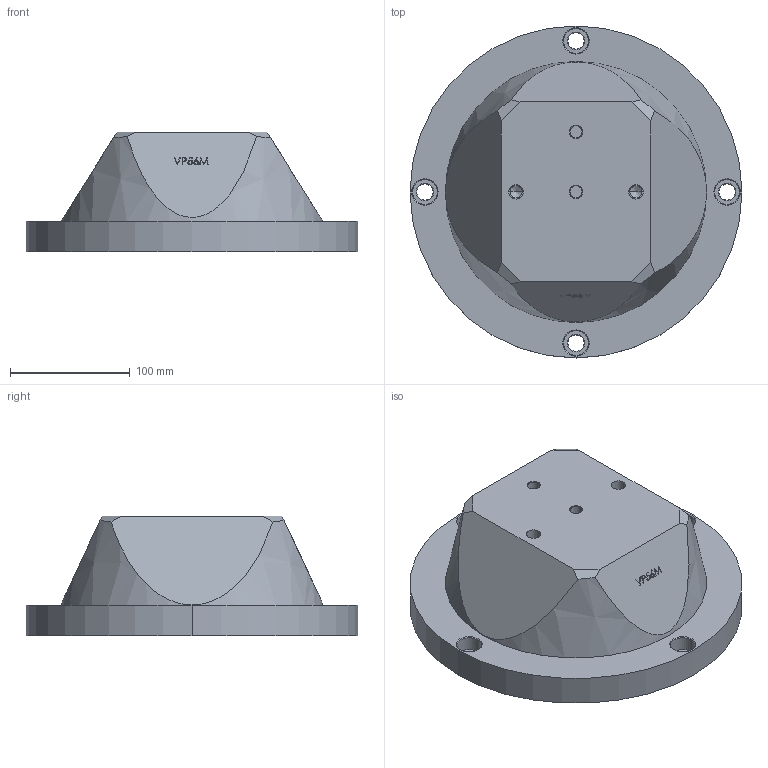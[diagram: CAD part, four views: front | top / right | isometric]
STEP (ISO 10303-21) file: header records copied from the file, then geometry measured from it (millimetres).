
FILE_DESCRIPTION (( 'STEP AP214' ), '1' );
FILE_NAME ('VP56M.STEP', '2015-10-02T16:33:20', ( '' ), ( '' ), 'SwSTEP 2.0', 'SolidWorks 2015', '' );
FILE_SCHEMA (( 'AUTOMOTIVE_DESIGN' ));
Length unit declared in the file: inch
Products named in the file (1): VP56M
Bounding box: 276.86 x 276.86 x 100 mm (x, y, z)
Volume: 3628458.3 mm3; surface area: 181853 mm2
Topology: 1 solids, 1 shells, 178 faces, 424 edges, 264 vertices
Faces by surface type: plane 67, cone 46, cylinder 42, bspline 23
Entity records: 7229 total; most frequent: CARTESIAN_POINT 2336, ORIENTED_EDGE 832, DIRECTION 794, EDGE_CURVE 416, AXIS2_PLACEMENT_3D 278, VERTEX_POINT 264, VECTOR 238, LINE 238
